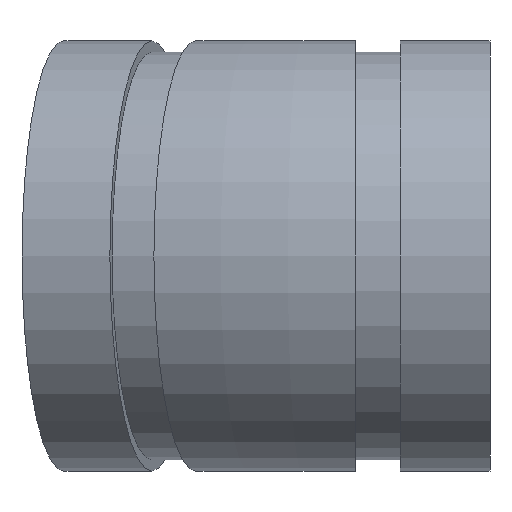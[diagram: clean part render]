
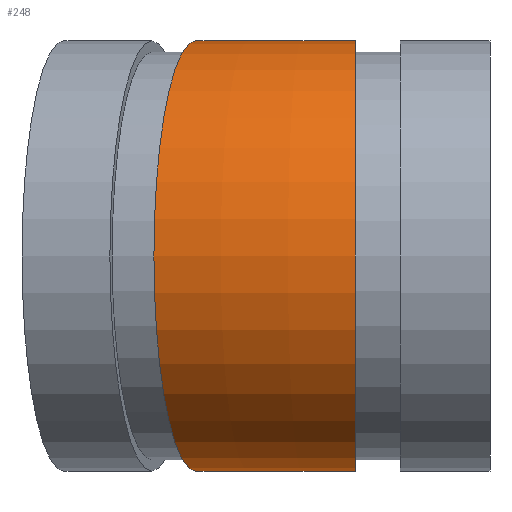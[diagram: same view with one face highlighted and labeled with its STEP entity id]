
A CAD part, left-side view. The second image highlights one B-rep face of the part: STEP entity #248.
In plain terms, the highlighted toroidal (fillet/blend) face has major radius 144.935 mm and minor radius 38.1 mm.
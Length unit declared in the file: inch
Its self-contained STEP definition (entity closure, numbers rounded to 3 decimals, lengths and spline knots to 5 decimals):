
#15=TOROIDAL_SURFACE('',#303,5.70608,1.5);
#47=FACE_OUTER_BOUND('',#65,.T.);
#65=EDGE_LOOP('',(#190,#191,#192,#193,#194,#195));
#79=CIRCLE('',#283,1.5);
#80=CIRCLE('',#284,1.5);
#86=CIRCLE('',#293,1.5);
#87=CIRCLE('',#294,1.5);
#95=CIRCLE('',#304,4.20608);
#105=VERTEX_POINT('',#418);
#106=VERTEX_POINT('',#419);
#112=VERTEX_POINT('',#436);
#113=VERTEX_POINT('',#437);
#130=EDGE_CURVE('',#105,#106,#79,.T.);
#131=EDGE_CURVE('',#106,#105,#80,.T.);
#138=EDGE_CURVE('',#112,#113,#86,.T.);
#139=EDGE_CURVE('',#113,#112,#87,.T.);
#147=EDGE_CURVE('',#113,#106,#95,.T.);
#190=ORIENTED_EDGE('',*,*,#138,.T.);
#191=ORIENTED_EDGE('',*,*,#147,.T.);
#192=ORIENTED_EDGE('',*,*,#131,.T.);
#193=ORIENTED_EDGE('',*,*,#130,.T.);
#194=ORIENTED_EDGE('',*,*,#147,.F.);
#195=ORIENTED_EDGE('',*,*,#139,.T.);
#248=ADVANCED_FACE('',(#47),#15,.T.);
#283=AXIS2_PLACEMENT_3D('',#420,#334,#335);
#284=AXIS2_PLACEMENT_3D('',#421,#336,#337);
#293=AXIS2_PLACEMENT_3D('',#438,#355,#356);
#294=AXIS2_PLACEMENT_3D('',#439,#357,#358);
#303=AXIS2_PLACEMENT_3D('',#454,#375,#376);
#304=AXIS2_PLACEMENT_3D('',#455,#377,#378);
#334=DIRECTION('center_axis',(0.,1.,0.));
#335=DIRECTION('ref_axis',(1.,0.,0.));
#336=DIRECTION('center_axis',(0.,1.,0.));
#337=DIRECTION('ref_axis',(1.,0.,0.));
#355=DIRECTION('center_axis',(-0.195,-0.981,0.));
#356=DIRECTION('ref_axis',(0.981,-0.195,0.));
#357=DIRECTION('center_axis',(-0.195,-0.981,0.));
#358=DIRECTION('ref_axis',(0.981,-0.195,0.));
#375=DIRECTION('center_axis',(0.,0.,-1.));
#376=DIRECTION('ref_axis',(-1.,0.,0.));
#377=DIRECTION('center_axis',(0.,0.,1.));
#378=DIRECTION('ref_axis',(-1.,0.,0.));
#418=CARTESIAN_POINT('',(0.,0.938,1.5));
#419=CARTESIAN_POINT('',(1.5,0.938,0.));
#420=CARTESIAN_POINT('Origin',(0.,0.938,0.));
#421=CARTESIAN_POINT('Origin',(0.,0.938,0.));
#436=CARTESIAN_POINT('',(0.10964,2.0512,1.5));
#437=CARTESIAN_POINT('',(1.58082,1.75857,0.));
#438=CARTESIAN_POINT('Origin',(0.10964,2.0512,0.));
#439=CARTESIAN_POINT('Origin',(0.10964,2.0512,0.));
#454=CARTESIAN_POINT('Origin',(5.70608,0.938,0.));
#455=CARTESIAN_POINT('Origin',(5.70608,0.938,0.));
